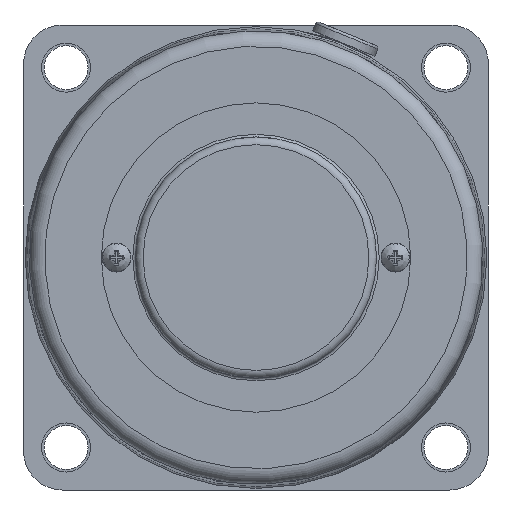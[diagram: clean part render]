
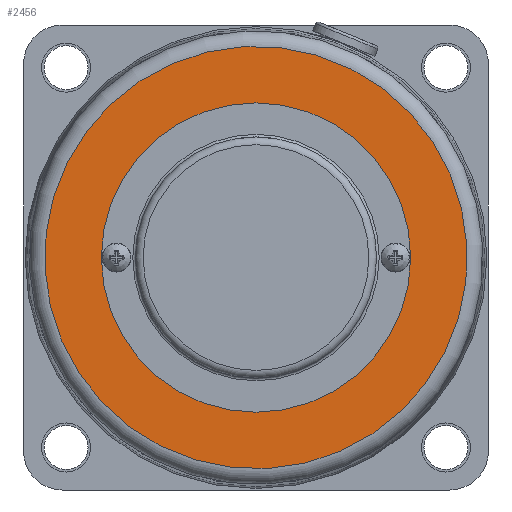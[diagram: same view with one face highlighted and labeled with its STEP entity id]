
A CAD part, left-side view. The second image highlights one B-rep face of the part: STEP entity #2456.
In plain terms, the highlighted planar face has unit normal (-1, 0, 0).
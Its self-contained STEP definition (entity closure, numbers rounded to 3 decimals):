
#89=PLANE('',#2693);
#167=FACE_BOUND('',#872,.T.);
#703=FACE_OUTER_BOUND('',#871,.T.);
#871=EDGE_LOOP('',(#1960));
#872=EDGE_LOOP('',(#1961));
#1037=CIRCLE('',#2694,40.9);
#1038=CIRCLE('',#2695,29.95);
#1193=VERTEX_POINT('',#4040);
#1194=VERTEX_POINT('',#4042);
#1472=EDGE_CURVE('',#1193,#1193,#1037,.T.);
#1473=EDGE_CURVE('',#1194,#1194,#1038,.T.);
#1960=ORIENTED_EDGE('',*,*,#1472,.F.);
#1961=ORIENTED_EDGE('',*,*,#1473,.F.);
#2456=ADVANCED_FACE('',(#703,#167),#89,.T.);
#2693=AXIS2_PLACEMENT_3D('',#4039,#3160,#3161);
#2694=AXIS2_PLACEMENT_3D('',#4041,#3162,#3163);
#2695=AXIS2_PLACEMENT_3D('',#4043,#3164,#3165);
#3160=DIRECTION('center_axis',(-1.,0.,0.));
#3161=DIRECTION('ref_axis',(0.,0.395,0.918));
#3162=DIRECTION('center_axis',(1.,0.,0.));
#3163=DIRECTION('ref_axis',(0.,0.395,0.918));
#3164=DIRECTION('center_axis',(-1.,0.,0.));
#3165=DIRECTION('ref_axis',(0.,-1.,0.));
#4039=CARTESIAN_POINT('Origin',(-40.5,0.,0.));
#4040=CARTESIAN_POINT('',(-40.5,-16.174,-37.566));
#4041=CARTESIAN_POINT('Origin',(-40.5,0.,0.));
#4042=CARTESIAN_POINT('',(-40.5,-29.95,0.));
#4043=CARTESIAN_POINT('Origin',(-40.5,0.,0.));
